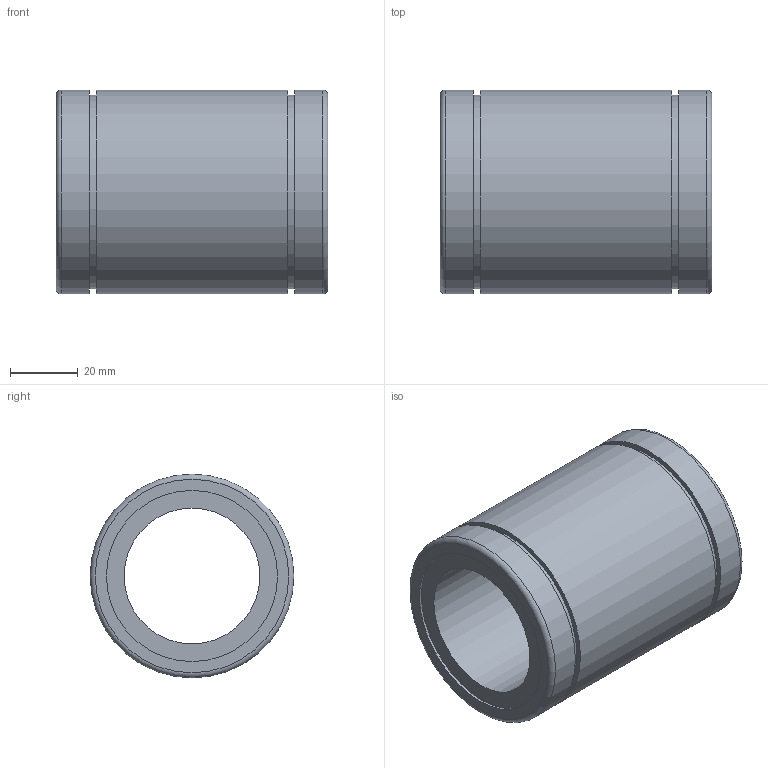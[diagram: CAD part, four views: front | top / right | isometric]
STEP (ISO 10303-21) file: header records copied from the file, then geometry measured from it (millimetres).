
FILE_DESCRIPTION(/* description */ ('STEP AP214'),/* implementation_level */ '2;1');
FILE_NAME(/* name */ '\\JOINapp01\Profiles\martins\Desktop\rolamento\LM40UU.step',/* time_stamp */ '2018-02-15T14:08:45-02:00',/* author */ ('martins'),/* organization */ ('TraceParts S.A.'),/* preprocessor_version */ 'ST-DEVELOPER v16.1',/* originating_system */ 'Autodesk Inventor 2016',/* authorisation */ ' ');
FILE_SCHEMA (('AUTOMOTIVE_DESIGN { 1 0 10303 214 3 1 1 }'));
Length unit declared in the file: millimetre
Products named in the file (2): lm40uu; Assembly14
Assembly tree (1 placements, depth 2):
  Assembly14
    lm40uu
Bounding box: 80 x 60 x 60 mm (x, y, z)
Volume: 123142.7 mm3; surface area: 29158.2 mm2
Topology: 1 solids, 1 shells, 187 faces, 493 edges, 329 vertices
Faces by surface type: plane 133, bspline 44, cylinder 8, torus 2
Full cylindrical faces by diameter (mm): 40 x1, 50.4 x2, 57 x2, 60 x3
Entity records: 6114 total; most frequent: CARTESIAN_POINT 1711, ORIENTED_EDGE 960, DIRECTION 702, EDGE_CURVE 480, LINE 374, VECTOR 374, VERTEX_POINT 326, EDGE_LOOP 220
